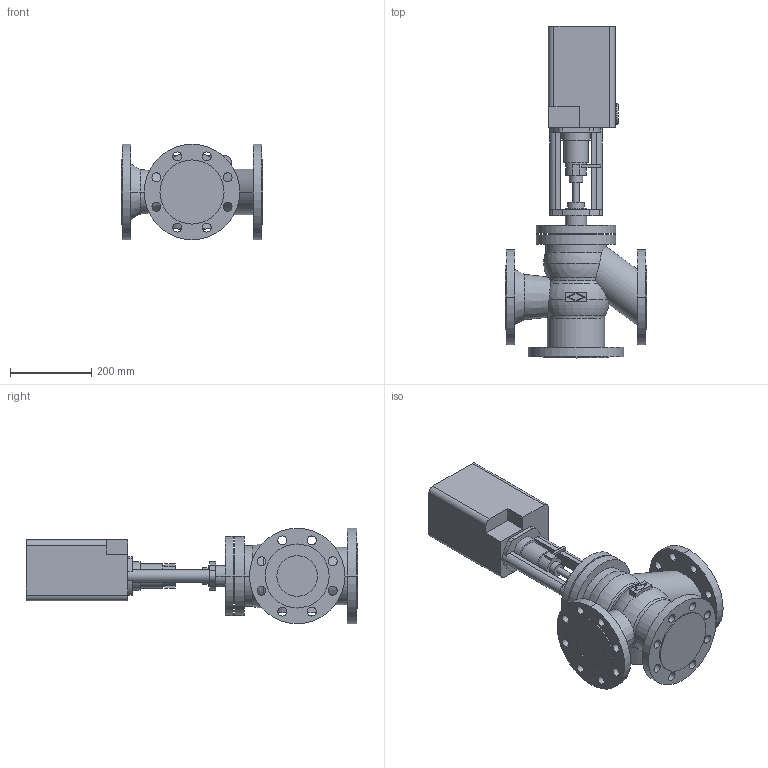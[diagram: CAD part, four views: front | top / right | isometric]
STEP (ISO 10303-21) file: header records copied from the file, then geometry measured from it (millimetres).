
FILE_DESCRIPTION(('OneSpaceDesigner STEP Export'),'2;1');
FILE_NAME('c000002393.stp','2006-09-19T11:58:21',(''),(''),'OneSpace Designer STEP processor for AP214 (Solid Model)','OneSpace Designer 13.20A 18-Aug-2005 (C) CoCreate Software GmbH','');
FILE_SCHEMA(('AUTOMOTIVE_DESIGN { 1 0 10303 214 1 1 1 1 }'));
Length unit declared in the file: millimetre
Products named in the file (2): 1; 2
Bounding box: 350 x 818.5 x 235 mm (x, y, z)
Volume: 17756380.1 mm3; surface area: 865769.6 mm2
Topology: 2 solids, 2 shells, 218 faces, 564 edges, 370 vertices
Faces by surface type: cylinder 114, plane 82, torus 14, sphere 4, cone 4
Entity records: 6303 total; most frequent: CARTESIAN_POINT 1357, ORIENTED_EDGE 1120, DIRECTION 887, EDGE_CURVE 560, VERTEX_POINT 370, AXIS2_PLACEMENT_3D 318, EDGE_LOOP 290, VECTOR 251
